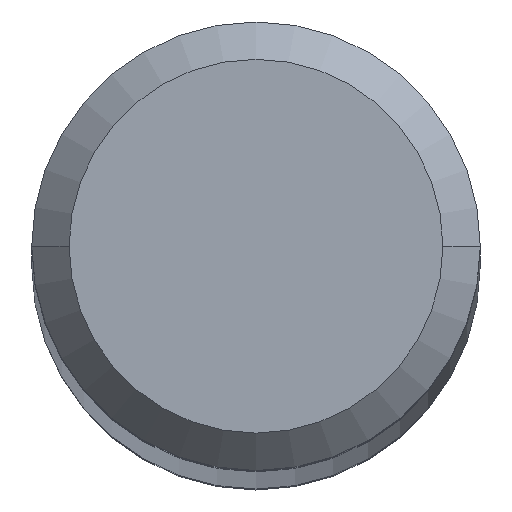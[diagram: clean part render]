
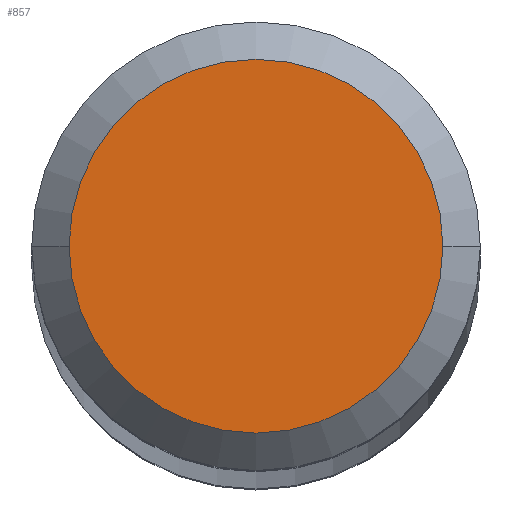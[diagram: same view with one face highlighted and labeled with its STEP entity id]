
A CAD part, top view. The second image highlights one B-rep face of the part: STEP entity #857.
In plain terms, the highlighted planar face has unit normal (0, 0, 1).
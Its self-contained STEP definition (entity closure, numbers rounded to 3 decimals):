
#15 = DIRECTION ( 'NONE',  ( 1., 0., 0. ) ) ;
#16 = DIRECTION ( 'NONE',  ( 0., 0., 1. ) ) ;
#17 = AXIS2_PLACEMENT_3D ( 'NONE', #20, #16, #15 ) ;
#20 = CARTESIAN_POINT ( 'NONE',  ( 0., 0., 300. ) ) ;
#23 = CIRCLE ( 'NONE', #17, 5. ) ;
#33 = CARTESIAN_POINT ( 'NONE',  ( -5., 0., 300. ) ) ;
#81 = CARTESIAN_POINT ( 'NONE',  ( 5., 0., 300. ) ) ;
#451 = AXIS2_PLACEMENT_3D ( 'NONE', #491, #479, #463 ) ;
#457 = PLANE ( 'NONE',  #451 ) ;
#463 = DIRECTION ( 'NONE',  ( 1., 0., 0. ) ) ;
#466 = CIRCLE ( 'NONE', #474, 5. ) ;
#473 = DIRECTION ( 'NONE',  ( 0., 0., 1. ) ) ;
#474 = AXIS2_PLACEMENT_3D ( 'NONE', #485, #473, #492 ) ;
#479 = DIRECTION ( 'NONE',  ( 0., 0., 1. ) ) ;
#485 = CARTESIAN_POINT ( 'NONE',  ( 0., 0., 300. ) ) ;
#491 = CARTESIAN_POINT ( 'NONE',  ( 0., 0., 300. ) ) ;
#492 = DIRECTION ( 'NONE',  ( 1., 0., 0. ) ) ;
#499 = FACE_OUTER_BOUND ( 'NONE', #821, .T. ) ;
#576 = EDGE_CURVE ( 'NONE', #623, #577, #23, .T. ) ;
#577 = VERTEX_POINT ( 'NONE', #33 ) ;
#623 = VERTEX_POINT ( 'NONE', #81 ) ;
#821 = EDGE_LOOP ( 'NONE', ( #831, #833 ) ) ;
#829 = EDGE_CURVE ( 'NONE', #577, #623, #466, .T. ) ;
#831 = ORIENTED_EDGE ( 'NONE', *, *, #829, .T. ) ;
#833 = ORIENTED_EDGE ( 'NONE', *, *, #576, .T. ) ;
#857 = ADVANCED_FACE ( 'NONE', ( #499 ), #457, .T. ) ;
